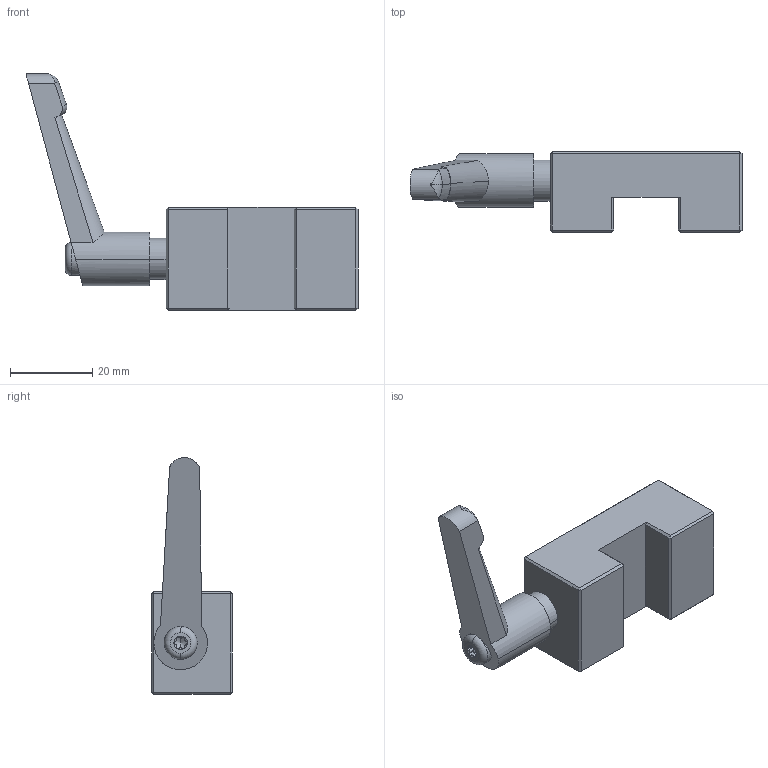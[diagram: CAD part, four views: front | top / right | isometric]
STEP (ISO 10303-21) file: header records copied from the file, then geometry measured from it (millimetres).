
FILE_DESCRIPTION (( 'STEP AP214' ), '1' );
FILE_NAME ('2.9042 Lukitusyksikkö 15 Musta.STEP', '2025-09-23T06:36:39', ( '' ), ( '' ), 'SwSTEP 2.0', 'SolidWorks 2025', '' );
FILE_SCHEMA (( 'AUTOMOTIVE_DESIGN' ));
Length unit declared in the file: millimetre
Products named in the file (1): 2.9042 Lukitusyksikkö 15 Musta
Bounding box: 80.6 x 19.5 x 57.49 mm (x, y, z)
Volume: 24619.2 mm3; surface area: 8658.9 mm2
Topology: 2 solids, 2 shells, 114 faces, 265 edges, 152 vertices
Faces by surface type: plane 49, cylinder 39, cone 20, torus 6
Entity records: 4711 total; most frequent: CARTESIAN_POINT 1009, ORIENTED_EDGE 506, DIRECTION 473, EDGE_CURVE 253, AXIS2_PLACEMENT_3D 167, VERTEX_POINT 152, LINE 139, VECTOR 139
